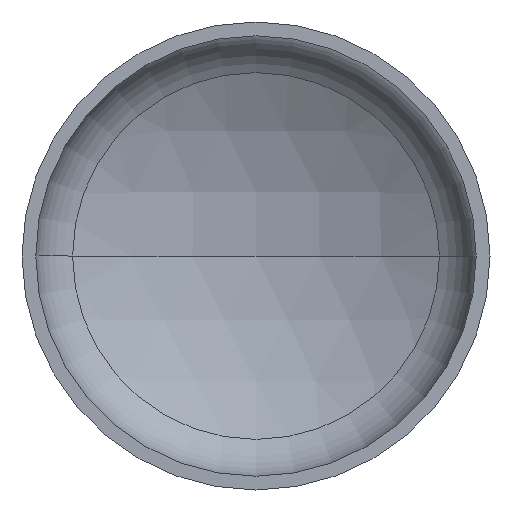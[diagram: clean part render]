
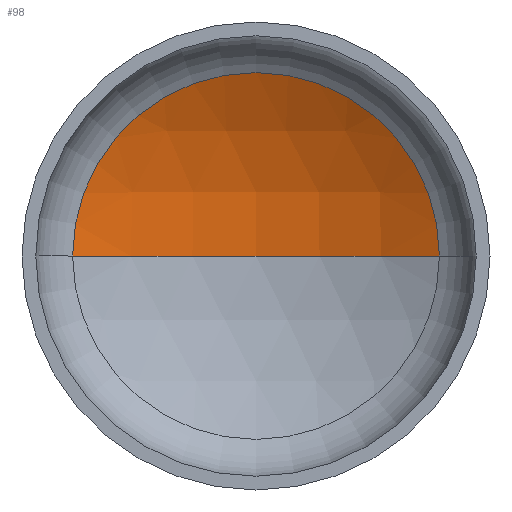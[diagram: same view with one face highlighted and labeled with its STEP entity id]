
A CAD part, front view. The second image highlights one B-rep face of the part: STEP entity #98.
In plain terms, the highlighted spherical face has radius 2880 mm.
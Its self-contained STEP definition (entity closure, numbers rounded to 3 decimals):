
#5 = VERTEX_POINT ( 'NONE', #17 ) ;
#17 = CARTESIAN_POINT ( 'NONE',  ( 1410.89, 558.839, 0. ) ) ;
#21 = DIRECTION ( 'NONE',  ( -1., 0., 0. ) ) ;
#24 = AXIS2_PLACEMENT_3D ( 'NONE', #402, #120, #266 ) ;
#28 = AXIS2_PLACEMENT_3D ( 'NONE', #29, #404, #270 ) ;
#29 = CARTESIAN_POINT ( 'NONE',  ( 0., -1951.895, 0. ) ) ;
#32 = ORIENTED_EDGE ( 'NONE', *, *, #94, .T. ) ;
#33 = AXIS2_PLACEMENT_3D ( 'NONE', #382, #146, #21 ) ;
#34 = VERTEX_POINT ( 'NONE', #397 ) ;
#35 = AXIS2_PLACEMENT_3D ( 'NONE', #394, #373, #399 ) ;
#88 = VERTEX_POINT ( 'NONE', #233 ) ;
#93 = EDGE_CURVE ( 'NONE', #5, #34, #101, .T. ) ;
#94 = EDGE_CURVE ( 'NONE', #88, #5, #396, .T. ) ;
#95 = EDGE_CURVE ( 'NONE', #88, #34, #204, .T. ) ;
#98 = ADVANCED_FACE ( 'NONE', ( #193 ), #272, .F. ) ;
#101 = CIRCLE ( 'NONE', #35, 1410.89 ) ;
#120 = DIRECTION ( 'NONE',  ( 0., 0., -1. ) ) ;
#146 = DIRECTION ( 'NONE',  ( 0., 0., -1. ) ) ;
#193 = FACE_OUTER_BOUND ( 'NONE', #227, .T. ) ;
#201 = ORIENTED_EDGE ( 'NONE', *, *, #93, .T. ) ;
#204 = CIRCLE ( 'NONE', #28, 2880. ) ;
#210 = ORIENTED_EDGE ( 'NONE', *, *, #95, .F. ) ;
#227 = EDGE_LOOP ( 'NONE', ( #210, #32, #201 ) ) ;
#233 = CARTESIAN_POINT ( 'NONE',  ( 0., 928.105, 0. ) ) ;
#266 = DIRECTION ( 'NONE',  ( -1., 0., 0. ) ) ;
#270 = DIRECTION ( 'NONE',  ( 1., 0., 0. ) ) ;
#272 = SPHERICAL_SURFACE ( 'NONE', #24, 2880. ) ;
#373 = DIRECTION ( 'NONE',  ( 0., -1., 0. ) ) ;
#382 = CARTESIAN_POINT ( 'NONE',  ( 0., -1951.895, 0. ) ) ;
#394 = CARTESIAN_POINT ( 'NONE',  ( 0., 558.839, 0. ) ) ;
#396 = CIRCLE ( 'NONE', #33, 2880. ) ;
#397 = CARTESIAN_POINT ( 'NONE',  ( -1410.89, 558.839, 0. ) ) ;
#399 = DIRECTION ( 'NONE',  ( 1., 0., 0. ) ) ;
#402 = CARTESIAN_POINT ( 'NONE',  ( 0., -1951.895, 0. ) ) ;
#404 = DIRECTION ( 'NONE',  ( 0., 0., 1. ) ) ;
